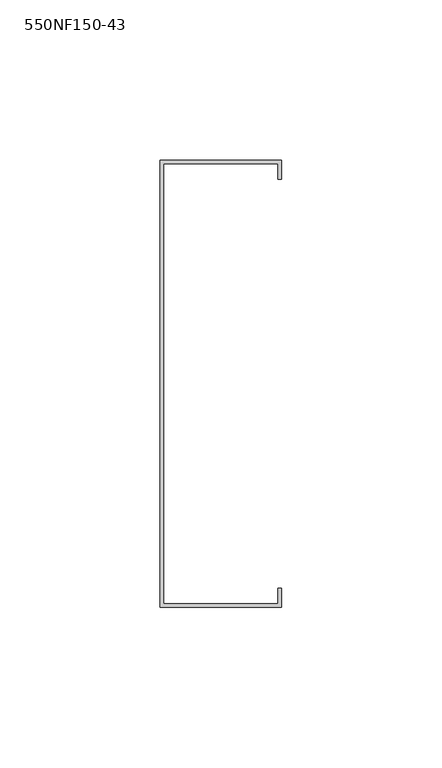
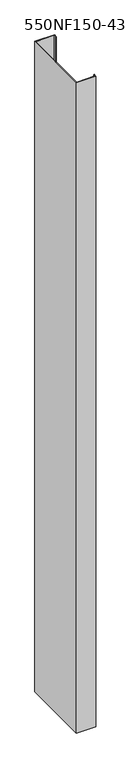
"""IFC4 building model written with IfcOpenShell, lengths in millimetres: column geometry, BIMSF-SSMA-S-Column : 550NF150-43."""

from ifc_helpers import new_model, si_unit, frame, origin, place, context, project, spatial, polyline, outline, extrude, source, transform, mapped, element, save


def column_550nf150_43_d70eaa88(model_context):
    return source(origin(), model_context, "Body", "SweptSolid", [
        extrude(outline(polyline([(-11.9977877, -80.5871249), (-11.9977877, 59.1128751), (26.1022123, 59.1128751), (26.1022123, 53.1879908), (24.952528, 53.1879908), (24.952528, 57.9631908), (-10.8481035, 57.9631908), (-10.8481035, -79.4374407), (24.952528, -79.4374407), (24.952528, -74.6622407), (26.1022123, -74.6622407), (26.1022123, -80.5871249), (-11.9977877, -80.5871249)])), frame((0.0, 0.0, 5525.3929688), z_axis=(0.0, 0.0, 1.0), x_axis=(1.0, 0.0, 0.0)), (0.0, 0.0, 1.0), 1336.8396659),
    ])


if __name__ == "__main__":
    model = new_model("IFC4")
    model_context = context("Model", 3, world=origin())
    ifc_project = project(units=[si_unit("LENGTHUNIT", "METRE", prefix="MILLI")], contexts=[model_context])
    site = spatial("IfcSite", under=ifc_project)
    building = spatial("IfcBuilding", under=site)
    placement = place(None, origin())
    column_550nf150_43_shape = column_550nf150_43_d70eaa88(model_context)
    element("IfcColumn", 1, ObjectType="BIMSF-SSMA-S-Column : 550NF150-43", at=placement, inside=building, context=model_context, shape_type="MappedRepresentation", body=[
        mapped(column_550nf150_43_shape, transform((0.0, 0.0, 0.0), x_axis=(1.0, 0.0, 0.0), y_axis=(0.0, 1.0, 0.0), z_axis=(0.0, 0.0, 1.0))),
    ])
    save(model, "model.ifc")
